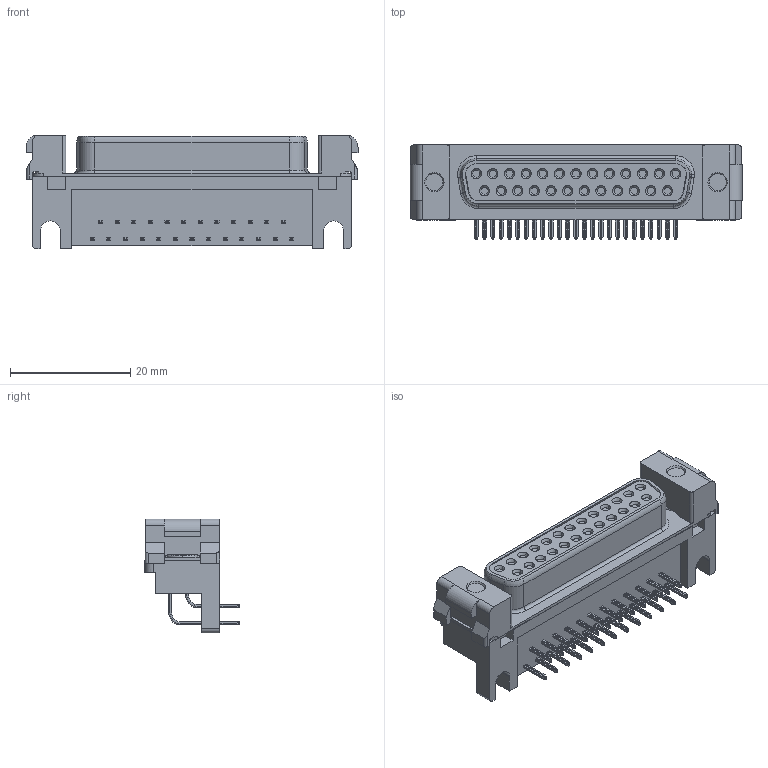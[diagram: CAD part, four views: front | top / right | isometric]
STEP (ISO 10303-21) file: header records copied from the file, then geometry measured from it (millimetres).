
FILE_DESCRIPTION (( 'STEP AP203' ), '1' );
FILE_NAME ('17LE-13250-27(D2C)-FA.STEP', '2022-01-24T10:48:26', ( '' ), ( '' ), 'SwSTEP 2.0', 'SolidWorks 2018', '' );
FILE_SCHEMA (( 'CONFIG_CONTROL_DESIGN' ));
Length unit declared in the file: millimetre
Products named in the file (1): 17LE-13250-27(D2C)-FA
Bounding box: 55.14 x 15.7 x 18.9 mm (x, y, z)
Volume: 6422 mm3; surface area: 6390.3 mm2
Topology: 1 solids, 3 shells, 1490 faces, 4013 edges, 2578 vertices
Faces by surface type: plane 736, cylinder 545, torus 146, cone 63
Entity records: 47544 total; most frequent: CARTESIAN_POINT 9144, DIRECTION 8191, ORIENTED_EDGE 8026, EDGE_CURVE 4013, AXIS2_PLACEMENT_3D 2841, VERTEX_POINT 2578, VECTOR 2509, LINE 2509
